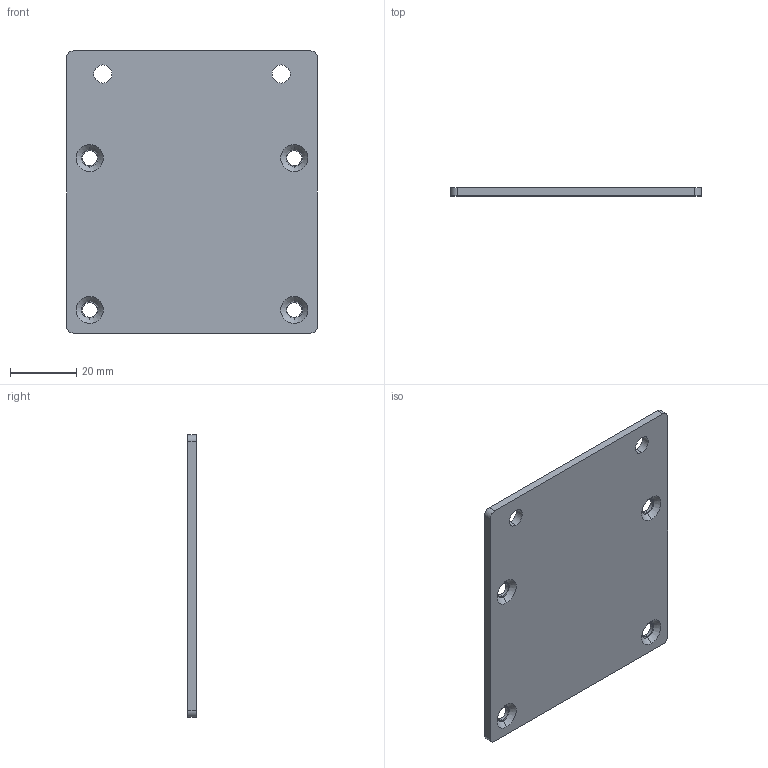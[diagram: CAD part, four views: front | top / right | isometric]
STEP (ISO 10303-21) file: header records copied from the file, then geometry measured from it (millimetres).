
FILE_DESCRIPTION (( 'STEP AP214' ), '1' );
FILE_NAME ('Žæ•tƒtƒ‰ƒ“ƒW.STEP', '2024-06-17T07:39:03', ( '' ), ( '' ), 'SwSTEP 2.0', 'SolidWorks 2023', '' );
FILE_SCHEMA (( 'AUTOMOTIVE_DESIGN' ));
Length unit declared in the file: millimetre
Products named in the file (1): 取付フランジ
Bounding box: 76 x 2.5 x 85.5 mm (x, y, z)
Volume: 15838.9 mm3; surface area: 13761 mm2
Topology: 1 solids, 1 shells, 34 faces, 84 edges, 56 vertices
Faces by surface type: cylinder 16, plane 10, cone 8
Entity records: 1083 total; most frequent: DIRECTION 202, CARTESIAN_POINT 175, ORIENTED_EDGE 168, EDGE_CURVE 84, AXIS2_PLACEMENT_3D 83, VERTEX_POINT 56, EDGE_LOOP 50, CIRCLE 48
